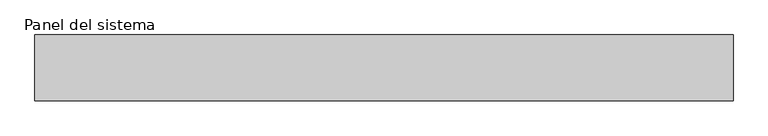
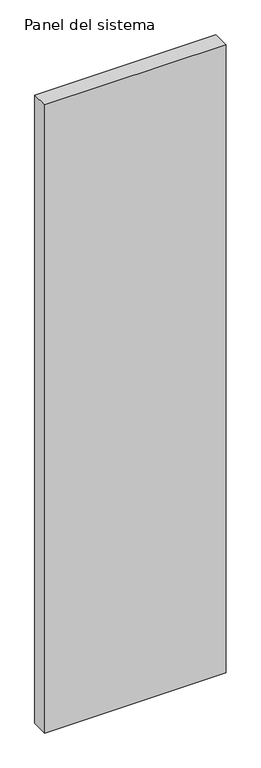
"""IFC4 building model written with IfcOpenShell, lengths in millimetres: plate geometry, Panel del sistema : HIANSA PANEL - PANELES DE CUBIERTA - PANEL TEJA - Esp. 40mm."""

from ifc_helpers import new_model, si_unit, origin, origin_with_axes, place, context, project, spatial, polyline, outline, extrude, source, transform, mapped, element, save


def panel_del_sistema_3fabdc7e(model_context):
    return source(origin(), model_context, "Body", "SweptSolid", [
        extrude(outline(polyline([(500.0000002, 0.0), (-500.0000002, 0.0), (-500.0000002, 94.0), (500.0000002, 94.0), (500.0000002, 0.0)])), origin_with_axes(), (0.0, 0.0, 1.0), 3660.0),
    ])


if __name__ == "__main__":
    model = new_model("IFC4")
    model_context = context("Model", 3, world=origin())
    ifc_project = project(units=[si_unit("LENGTHUNIT", "METRE", prefix="MILLI")], contexts=[model_context])
    site = spatial("IfcSite", under=ifc_project)
    building = spatial("IfcBuilding", under=site)
    placement = place(None, origin())
    panel_del_sistema_shape = panel_del_sistema_3fabdc7e(model_context)
    element("IfcPlate", 1, ObjectType="Panel del sistema : HIANSA PANEL - PANELES DE CUBIERTA - PANEL TEJA - Esp. 40mm", at=placement, inside=building, context=model_context, shape_type="MappedRepresentation", body=[
        mapped(panel_del_sistema_shape, transform((0.0, 0.0, 0.0), x_axis=(1.0, 0.0, 0.0), y_axis=(0.0, 1.0, 0.0), z_axis=(0.0, 0.0, 1.0))),
    ])
    save(model, "model.ifc")
